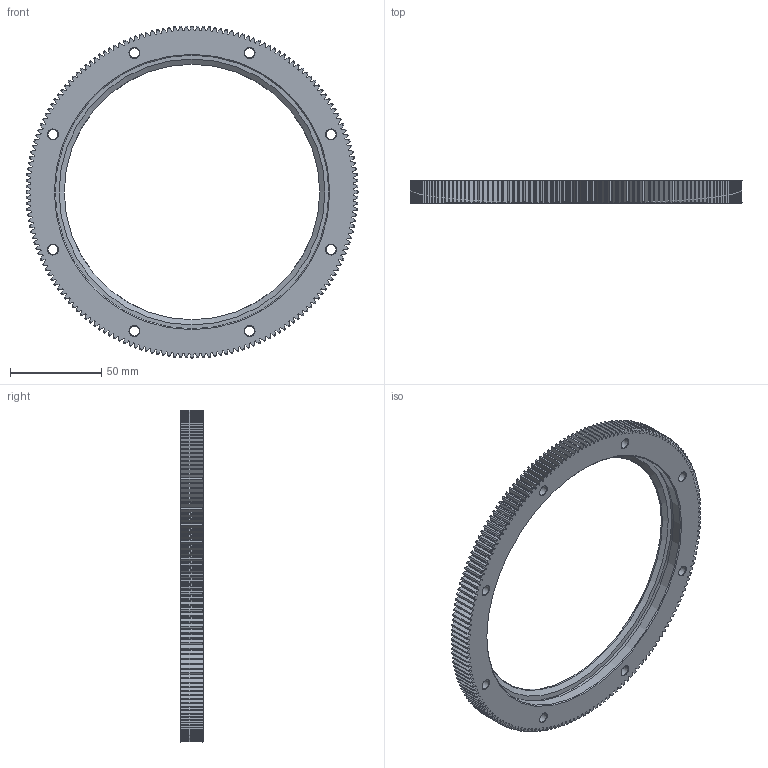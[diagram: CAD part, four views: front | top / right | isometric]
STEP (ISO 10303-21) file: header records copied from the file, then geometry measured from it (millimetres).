
FILE_DESCRIPTION( ( 'STEP AP203' ), '1' );
FILE_NAME( 'p:/temp/worker_57/temp/exporttempdir_4960_239_xWyv7/format_0/RIS 182 R360 P.stp', '2021-09-01T01:41:37', ( 'License CC BY-ND 4.0' ), ( 'CADENAS' ), ' ', 'PARTsolutions', ' ' );
FILE_SCHEMA( ( 'CONFIG_CONTROL_DESIGN' ) );
Length unit declared in the file: millimetre
Products named in the file (1): _RIS 182 R360 P
Bounding box: 182 x 12.25 x 182 mm (x, y, z)
Volume: 97370.2 mm3; surface area: 40468.6 mm2
Topology: 1 solids, 1 shells, 1122 faces, 3319 edges, 2209 vertices
Faces by surface type: plane 732, cylinder 198, cone 191, torus 1
Full cylindrical faces by diameter (mm): 5.5 x8, 10 x8, 150 x1, 151.2 x1
Entity records: 37534 total; most frequent: CARTESIAN_POINT 7701, ORIENTED_EDGE 6578, DIRECTION 5764, EDGE_CURVE 3289, LINE 2340, VECTOR 2340, VERTEX_POINT 2209, AXIS2_PLACEMENT_3D 1712
